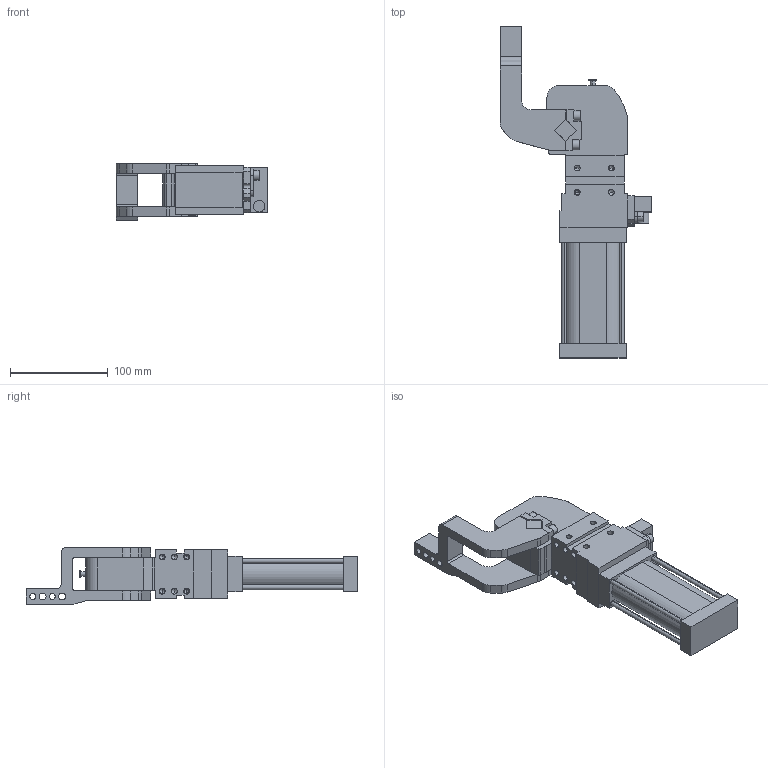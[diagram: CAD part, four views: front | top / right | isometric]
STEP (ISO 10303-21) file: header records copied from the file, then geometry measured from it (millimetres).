
FILE_DESCRIPTION (( 'STEP AP214' ), '1' );
FILE_NAME ('cpl40h3di1g_135.STEP', '2021-05-25T10:50:45', ( '' ), ( '' ), 'SwSTEP 2.0', 'SolidWorks 2021', '' );
FILE_SCHEMA (( 'AUTOMOTIVE_DESIGN' ));
Length unit declared in the file: millimetre
Products named in the file (5): cpl40h3di1g_135; piastra_blocchetto_cpl40; leva_v3s_cpl40; blocchetto_VEP_0_cpl40; meccanica_cpl40
Assembly tree (4 placements, depth 2):
  cpl40h3di1g_135
    meccanica_cpl40
    blocchetto_VEP_0_cpl40
    piastra_blocchetto_cpl40
    leva_v3s_cpl40
Bounding box: 155.5 x 340 x 58 mm (x, y, z)
Volume: 792032 mm3; surface area: 122330.3 mm2
Topology: 5 solids, 5 shells, 417 faces, 1067 edges, 667 vertices
Faces by surface type: plane 220, cylinder 149, cone 48
Entity records: 13886 total; most frequent: DIRECTION 2197, CARTESIAN_POINT 2112, ORIENTED_EDGE 2042, EDGE_CURVE 1021, AXIS2_PLACEMENT_3D 752, VECTOR 693, LINE 693, VERTEX_POINT 667
